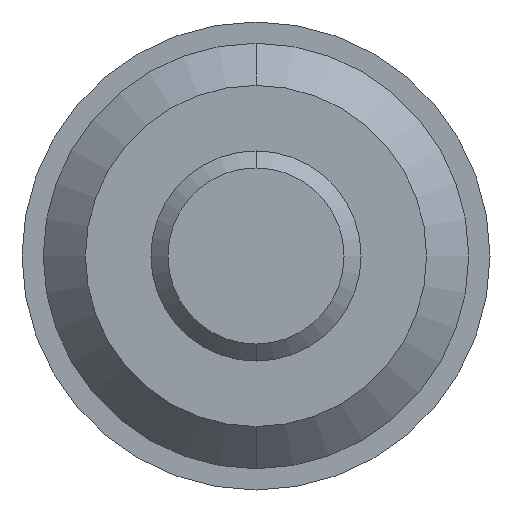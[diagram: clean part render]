
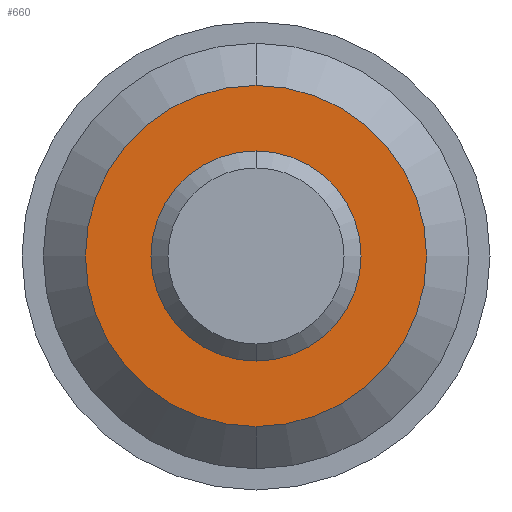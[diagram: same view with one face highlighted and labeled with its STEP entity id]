
A CAD part, front view. The second image highlights one B-rep face of the part: STEP entity #660.
In plain terms, the highlighted planar face has unit normal (0, -1, 0).
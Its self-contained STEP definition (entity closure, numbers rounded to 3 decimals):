
#185=CARTESIAN_POINT('',(0.,1.2,0.));
#186=DIRECTION('',(0.,1.,0.));
#187=DIRECTION('',(0.,0.,-1.));
#188=AXIS2_PLACEMENT_3D('',#185,#186,#187);
#190=CARTESIAN_POINT('',(0.,1.2,0.));
#191=DIRECTION('',(0.,-1.,0.));
#192=DIRECTION('',(0.,0.,-1.));
#193=AXIS2_PLACEMENT_3D('',#190,#191,#192);
#195=CARTESIAN_POINT('',(0.,1.2,0.));
#196=DIRECTION('',(0.,-1.,0.));
#197=DIRECTION('',(0.,0.,-1.));
#198=AXIS2_PLACEMENT_3D('',#195,#196,#197);
#200=CARTESIAN_POINT('',(0.,1.2,0.));
#201=DIRECTION('',(0.,1.,0.));
#202=DIRECTION('',(0.,0.,-1.));
#203=AXIS2_PLACEMENT_3D('',#200,#201,#202);
#300=CARTESIAN_POINT('',(0.,1.2,-0.735));
#302=VERTEX_POINT('',#300);
#303=CARTESIAN_POINT('',(0.,1.2,-2.005));
#305=VERTEX_POINT('',#303);
#336=CARTESIAN_POINT('',(0.,1.2,0.735));
#338=VERTEX_POINT('',#336);
#339=CARTESIAN_POINT('',(0.,1.2,2.005));
#341=VERTEX_POINT('',#339);
#645=CARTESIAN_POINT('',(0.,1.2,0.));
#646=DIRECTION('',(0.,-1.,0.));
#647=DIRECTION('',(0.,0.,1.));
#648=AXIS2_PLACEMENT_3D('',#645,#646,#647);
#649=PLANE('',#648);
#650=ORIENTED_EDGE('',*,*,#627,.T.);
#651=ORIENTED_EDGE('',*,*,#638,.F.);
#652=EDGE_LOOP('',(#650,#651));
#653=FACE_OUTER_BOUND('',#652,.F.);
#655=ORIENTED_EDGE('',*,*,#654,.T.);
#657=ORIENTED_EDGE('',*,*,#656,.F.);
#658=EDGE_LOOP('',(#655,#657));
#659=FACE_BOUND('',#658,.F.);
#660=ADVANCED_FACE('',(#653,#659),#649,.T.);
#189=CIRCLE('',#188,2.005);
#194=CIRCLE('',#193,2.005);
#199=CIRCLE('',#198,0.735);
#204=CIRCLE('',#203,0.735);
#627=EDGE_CURVE('',#305,#341,#189,.T.);
#638=EDGE_CURVE('',#305,#341,#194,.T.);
#654=EDGE_CURVE('',#302,#338,#199,.T.);
#656=EDGE_CURVE('',#302,#338,#204,.T.);
